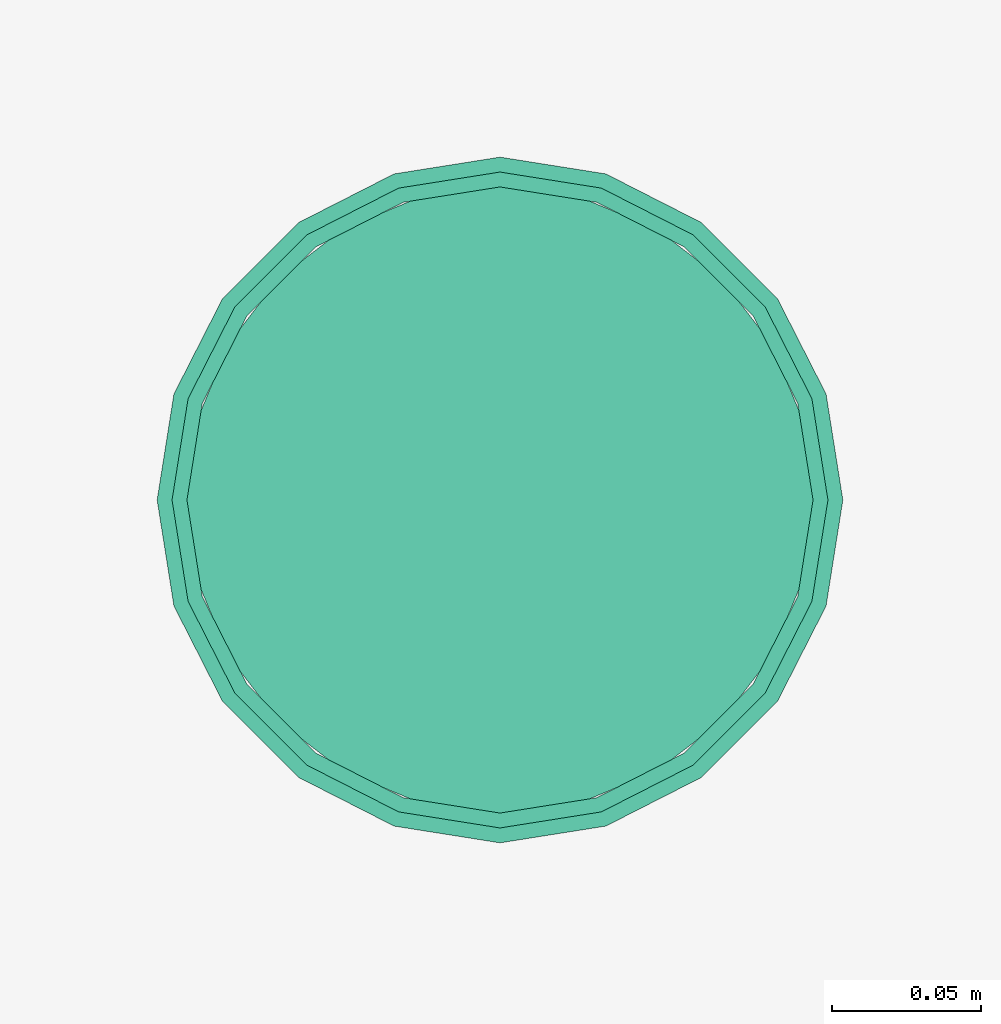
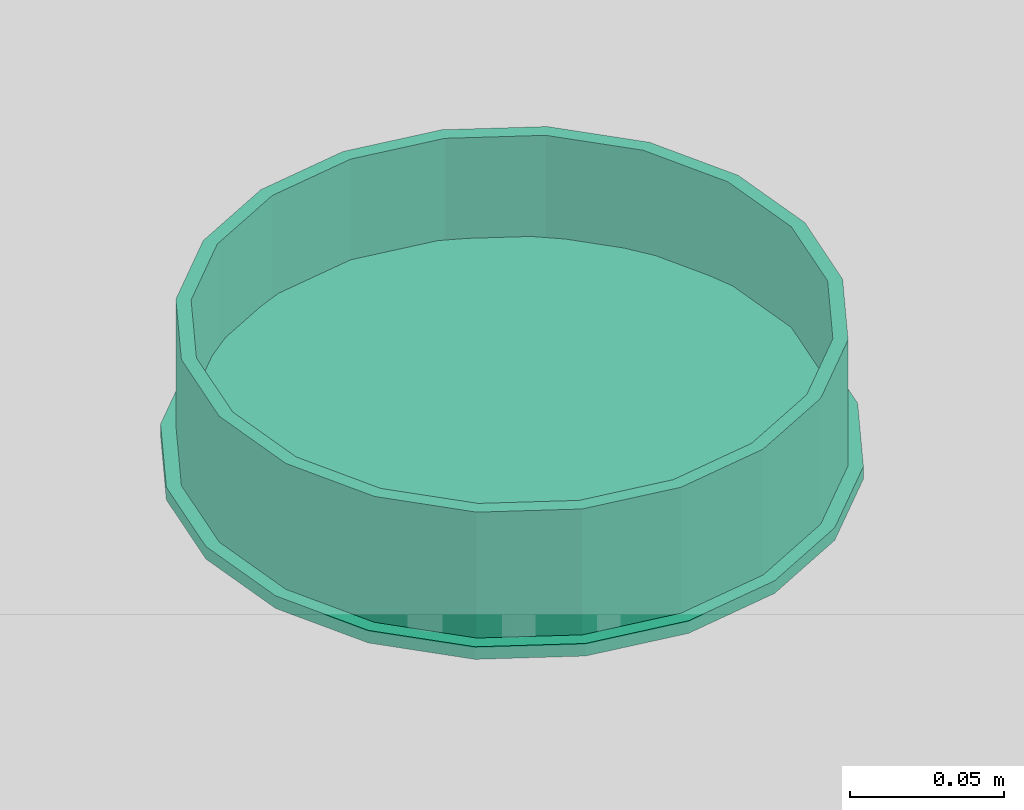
# One storey, part 76 of 128: 1 flow terminal.
"""IFC2X3 building model written with IfcOpenShell, lengths in metres."""

from ifc_helpers import new_model, entity, si_unit, converted_unit, derived_unit, direction, frame, origin, place, context, subcontext, project, spatial, faceted_brep, source, transform, mapped, material, type_object, type_shapes, element, save


model = new_model("IFC2X3")

# Units and contexts
model_context = context("Model", 3, precision=1e-05, world=origin(), true_north=direction((6.123031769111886e-17, 1.0)))
body_context = subcontext(model_context, "Body", "Model", "MODEL_VIEW")
ifc_project = project(units=[si_unit("LENGTHUNIT", "METRE"), si_unit("AREAUNIT", "SQUARE_METRE"), converted_unit("PLANEANGLEUNIT", "DEGREE", entity("IfcPlaneAngleMeasure", 0.017453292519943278), si_unit("PLANEANGLEUNIT", "RADIAN"), dimensions=[0, 0, 0, 0, 0, 0, 0]), derived_unit("THERMALTRANSMITTANCEUNIT", [(si_unit("MASSUNIT", "GRAM", prefix="KILO"), 1), (si_unit("THERMODYNAMICTEMPERATUREUNIT", "KELVIN"), -1), (si_unit("TIMEUNIT", "SECOND"), -3)])], contexts=[model_context])

# Site, building, storey
site_placement = place(None, origin())
site = spatial("IfcSite", under=ifc_project, at=site_placement, Name="Default", CompositionType="ELEMENT")
building_placement = place(site_placement, origin())
building = spatial("IfcBuilding", under=site, at=building_placement, CompositionType="ELEMENT")
storey_placement = place(building_placement, origin())
storey = spatial("IfcBuildingStorey", under=building, at=storey_placement, Name="00_RDC CAF", CompositionType="ELEMENT", Elevation=2.4982504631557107e-13)

# Flow terminal
ifc_material = material(Name="ARC - Eq Elec - Blanc")
light_fixture_type = type_object("IfcLightFixtureType", Name="Eq_Elec_Luminaire_Circulaire_LED_Encastre:Eq_Elec_Luminaire_Circulaire_LED_Encastre_D220x50mm", PredefinedType="NOTDEFINED", material=ifc_material)
shared_shape = source(origin(), body_context, "Body", "Brep", [
    faceted_brep([(0.0, 0.10499999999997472, -0.010000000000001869), (0.02717599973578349, 0.10142221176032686, -0.010000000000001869), (0.05250000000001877, 0.09093266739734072, -0.010000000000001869), (0.07424621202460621, 0.07424621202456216, -0.010000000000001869), (0.09093266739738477, 0.05249999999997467, -0.010000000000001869), (0.10142221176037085, 0.027175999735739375, -0.010000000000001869), (0.10500000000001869, 0.0, -0.010000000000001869), (0.10142221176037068, -0.02717599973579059, -0.010000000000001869), (0.09093266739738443, -0.05250000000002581, -0.010000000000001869), (0.07424621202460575, -0.07424621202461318, -0.010000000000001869), (0.0525000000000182, -0.09093266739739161, -0.010000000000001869), (0.02717599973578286, -0.10142221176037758, -0.010000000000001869), (0.0, -0.10500000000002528, -0.010000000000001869), (-0.027175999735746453, -0.10142221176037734, -0.010000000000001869), (-0.052499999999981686, -0.09093266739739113, -0.010000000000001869), (-0.07424621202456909, -0.0742462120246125, -0.010000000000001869), (-0.09093266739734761, -0.052500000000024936, -0.010000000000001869), (-0.10142221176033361, -0.027175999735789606, -0.010000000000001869), (-0.10499999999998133, 0.0, -0.010000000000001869), (-0.1014222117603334, 0.027175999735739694, -0.010000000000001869), (-0.09093266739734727, 0.05249999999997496, -0.010000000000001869), (-0.07424621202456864, 0.07424621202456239, -0.010000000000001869), (-0.052499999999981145, 0.09093266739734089, -0.010000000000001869), (-0.027175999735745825, 0.10142221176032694, -0.010000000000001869), (0.02717599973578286, -0.10142221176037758, 0.0), (0.0525000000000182, -0.09093266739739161, 0.0), (0.07424621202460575, -0.07424621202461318, 0.0), (0.09093266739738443, -0.05250000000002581, 0.0), (0.10142221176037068, -0.02717599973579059, 0.0), (0.10500000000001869, 0.0, 0.0), (0.10142221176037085, 0.027175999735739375, 0.0), (0.09093266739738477, 0.05249999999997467, 0.0), (0.07424621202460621, 0.07424621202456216, 0.0), (0.05250000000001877, 0.09093266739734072, 0.0), (0.02717599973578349, 0.10142221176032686, 0.0), (0.0, 0.10499999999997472, 0.0), (-0.027175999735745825, 0.10142221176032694, 0.0), (-0.052499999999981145, 0.09093266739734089, 0.0), (-0.07424621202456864, 0.07424621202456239, 0.0), (-0.09093266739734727, 0.05249999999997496, 0.0), (-0.1014222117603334, 0.027175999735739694, 0.0), (-0.10499999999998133, 0.0, 0.0), (-0.10142221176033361, -0.027175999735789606, 0.0), (-0.09093266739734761, -0.052500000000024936, 0.0), (-0.07424621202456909, -0.0742462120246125, 0.0), (-0.052499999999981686, -0.09093266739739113, 0.0), (-0.027175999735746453, -0.10142221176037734, 0.0), (0.0, -0.10500000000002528, 0.0)], [[[0, 1, 2, 3, 4, 5, 6, 7, 8, 9, 10, 11, 12, 13, 14, 15, 16, 17, 18, 19, 20, 21, 22, 23]], [[24, 25, 26, 27, 28, 29, 30, 31, 32, 33, 34, 35, 36, 37, 38, 39, 40, 41, 42, 43, 44, 45, 46, 47]], [[17, 42, 41, 18]], [[16, 43, 42, 17]], [[45, 44, 15, 14]], [[16, 15, 44, 43]], [[46, 45, 14, 13]], [[47, 46, 13, 12]], [[11, 24, 47, 12]], [[10, 25, 24, 11]], [[27, 26, 9, 8]], [[10, 9, 26, 25]], [[28, 27, 8, 7]], [[29, 28, 7, 6]], [[5, 30, 29, 6]], [[4, 31, 30, 5]], [[33, 32, 3, 2]], [[4, 3, 32, 31]], [[34, 33, 2, 1]], [[35, 34, 1, 0]], [[23, 36, 35, 0]], [[22, 37, 36, 23]], [[19, 18, 41, 40]], [[21, 38, 37, 22]], [[39, 20, 19, 40]], [[39, 38, 21, 20]]]),
    faceted_brep([(-0.10999999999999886, 0.0, 0.0), (-0.10999999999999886, 0.0, -0.05000000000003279), (-0.10461621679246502, -0.033991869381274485, -0.05000000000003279), (-0.10461621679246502, -0.033991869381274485, 0.0), (-0.08899186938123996, -0.06465637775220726, 0.0), (-0.08899186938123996, -0.06465637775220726, -0.05000000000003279), (-0.06465637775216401, -0.08899186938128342, -0.05000000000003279), (-0.06465637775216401, -0.08899186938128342, 0.0), (-0.03399186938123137, -0.10461621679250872, -0.05000000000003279), (-0.03399186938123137, -0.10461621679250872, 0.0), (0.0, -0.11000000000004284, -0.05000000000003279), (0.0, -0.11000000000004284, 0.0), (0.033991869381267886, -0.10461621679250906, -0.05000000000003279), (0.06465637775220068, -0.08899186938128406, -0.05000000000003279), (0.06465637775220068, -0.08899186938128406, 0.0), (0.033991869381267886, -0.10461621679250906, 0.0), (0.10461621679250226, -0.03399186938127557, 0.0), (0.08899186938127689, -0.06465637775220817, 0.0), (0.08899186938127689, -0.06465637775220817, -0.05000000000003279), (0.10461621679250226, -0.03399186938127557, -0.05000000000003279), (0.11000000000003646, 0.0, 0.0), (0.11000000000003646, 0.0, -0.05000000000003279), (-0.1093714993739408, -0.03553695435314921, 0.0), (-0.1093714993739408, -0.03553695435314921, 0.004999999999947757), (-0.11135404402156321, -0.023019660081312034, 0.004999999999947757), (-0.11499999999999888, 0.0, 0.004999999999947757), (-0.11499999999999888, 0.0, 0.0), (-0.11218574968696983, -0.017768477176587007, 0.0), (-0.09303695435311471, -0.0675953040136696, 0.0), (-0.08031612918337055, -0.08031612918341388, 0.0), (-0.06759530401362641, -0.09303695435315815, 0.0), (-0.06759530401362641, -0.09303695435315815, 0.004999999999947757), (-0.08031612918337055, -0.08031612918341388, 0.004999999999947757), (-0.09303695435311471, -0.0675953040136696, 0.004999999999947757), (0.10120422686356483, -0.05156612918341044, 0.004999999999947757), (0.09303695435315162, -0.06759530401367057, 0.004999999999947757), (0.09303695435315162, -0.06759530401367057, 0.0), (0.10120422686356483, -0.05156612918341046, 0.0), (0.10937149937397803, -0.035536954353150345, 0.0), (0.10937149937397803, -0.035536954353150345, 0.004999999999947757), (0.08031612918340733, -0.0803161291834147, 0.004999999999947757), (0.06759530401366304, -0.09303695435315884, 0.004999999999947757), (0.06759530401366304, -0.09303695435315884, 0.0), (0.08031612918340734, -0.08031612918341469, 0.0), (-0.10120422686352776, -0.0515661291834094, 0.0), (-0.10120422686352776, -0.0515661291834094, 0.004999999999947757), (-0.051566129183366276, -0.10120422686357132, 0.0), (-0.03553695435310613, -0.1093714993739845, 0.0), (-0.03553695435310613, -0.1093714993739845, 0.004999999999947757), (-0.051566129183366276, -0.10120422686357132, 0.004999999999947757), (0.11500000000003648, 0.0, 0.004999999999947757), (0.11135404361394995, -0.02301966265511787, 0.004999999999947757), (0.11218574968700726, -0.01776847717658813, 0.0), (0.11500000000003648, 0.0, 0.0), (0.017768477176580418, -0.11218574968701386, 0.0), (0.0355369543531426, -0.10937149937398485, 0.0), (0.0355369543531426, -0.10937149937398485, 0.004999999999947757), (0.017768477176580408, -0.11218574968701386, 0.004999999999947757), (0.0, -0.11500000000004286, 0.004999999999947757), (0.0, -0.11500000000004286, 0.0), (-0.017768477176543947, -0.11218574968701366, 0.004999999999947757), (-0.017768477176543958, -0.11218574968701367, 0.0), (0.051566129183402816, -0.10120422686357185, 0.0), (0.051566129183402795, -0.10120422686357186, 0.004999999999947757), (-0.09986093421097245, -0.0324467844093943, -0.05000000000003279), (-0.1049999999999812, 0.0, -0.05000000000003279), (-0.1049999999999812, 0.0, 0.004999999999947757), (-0.09986093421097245, -0.0324467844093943, 0.004999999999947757), (-0.061717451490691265, -0.08494678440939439, -0.05000000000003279), (-0.08494678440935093, -0.06171745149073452, -0.05000000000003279), (-0.08494678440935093, -0.06171745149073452, 0.004999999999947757), (-0.061717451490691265, -0.08494678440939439, 0.004999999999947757), (-0.03244678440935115, -0.09986093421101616, 0.004999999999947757), (-0.03244678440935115, -0.09986093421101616, -0.05000000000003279), (0.0, -0.10500000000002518, 0.004999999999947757), (0.0, -0.10500000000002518, -0.05000000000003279), (0.06171745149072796, -0.08494678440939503, -0.05000000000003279), (0.03244678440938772, -0.0998609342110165, -0.05000000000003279), (0.03244678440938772, -0.0998609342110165, 0.004999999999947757), (0.06171745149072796, -0.08494678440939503, 0.004999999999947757), (0.09986093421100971, -0.03244678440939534, -0.05000000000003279), (0.0849467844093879, -0.06171745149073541, -0.05000000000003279), (0.0849467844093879, -0.06171745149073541, 0.004999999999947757), (0.09986093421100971, -0.03244678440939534, 0.004999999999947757), (0.1050000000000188, 0.0, -0.05000000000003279), (0.1050000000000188, 0.0, 0.004999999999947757), (0.10461621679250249, 0.03399186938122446, -0.05000000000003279), (0.10461621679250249, 0.03399186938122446, 0.0), (0.08899186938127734, 0.06465637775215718, 0.0), (0.08899186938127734, 0.06465637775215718, -0.05000000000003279), (0.0646563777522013, 0.08899186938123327, -0.05000000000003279), (0.0646563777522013, 0.08899186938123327, 0.0), (0.03399186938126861, 0.10461621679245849, -0.05000000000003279), (0.03399186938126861, 0.10461621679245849, 0.0), (0.0, 0.10999999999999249, -0.05000000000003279), (0.0, 0.10999999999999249, 0.0), (-0.033991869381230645, 0.1046162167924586, -0.05000000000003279), (-0.0646563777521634, 0.0889918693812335, -0.05000000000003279), (-0.0646563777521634, 0.0889918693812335, 0.0), (-0.033991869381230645, 0.1046162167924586, 0.0), (-0.10461621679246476, 0.03399186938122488, 0.0), (-0.0889918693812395, 0.06465637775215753, 0.0), (-0.0889918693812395, 0.06465637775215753, -0.05000000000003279), (-0.10461621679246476, 0.03399186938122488, -0.05000000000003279), (0.09986093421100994, 0.03244678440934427, -0.05000000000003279), (0.08494678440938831, 0.061717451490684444, -0.05000000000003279), (0.06171745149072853, 0.08494678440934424, -0.05000000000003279), (0.03244678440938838, 0.0998609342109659, -0.05000000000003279), (0.0, 0.1049999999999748, -0.05000000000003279), (-0.032446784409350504, 0.09986093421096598, -0.05000000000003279), (-0.061717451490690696, 0.0849467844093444, -0.05000000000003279), (-0.0849467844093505, 0.06171745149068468, -0.05000000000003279), (-0.0998609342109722, 0.03244678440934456, -0.05000000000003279), (0.10937149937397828, 0.035536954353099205, 0.0), (0.10937149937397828, 0.035536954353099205, 0.004999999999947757), (0.11135404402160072, 0.023019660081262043, 0.004999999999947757), (0.11218574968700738, 0.017768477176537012, 0.0), (0.0930369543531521, 0.06759530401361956, 0.0), (0.0803161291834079, 0.0803161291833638, 0.0), (0.06759530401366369, 0.093036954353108, 0.0), (0.06759530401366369, 0.093036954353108, 0.004999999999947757), (0.0803161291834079, 0.0803161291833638, 0.004999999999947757), (0.0930369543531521, 0.06759530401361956, 0.004999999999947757), (-0.1012042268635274, 0.05156612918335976, 0.004999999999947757), (-0.09303695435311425, 0.06759530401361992, 0.004999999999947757), (-0.09303695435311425, 0.06759530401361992, 0.0), (-0.1012042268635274, 0.05156612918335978, 0.0), (-0.10937149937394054, 0.03553695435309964, 0.0), (-0.10937149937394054, 0.03553695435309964, 0.004999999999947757), (-0.08031612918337, 0.0803161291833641, 0.004999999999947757), (-0.06759530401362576, 0.09303695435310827, 0.004999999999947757), (-0.06759530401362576, 0.09303695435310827, 0.0), (-0.08031612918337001, 0.08031612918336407, 0.0), (0.1012042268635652, 0.05156612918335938, 0.0), (0.1012042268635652, 0.05156612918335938, 0.004999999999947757), (0.051566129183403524, 0.10120422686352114, 0.0), (0.03553695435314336, 0.10937149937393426, 0.0), (0.03553695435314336, 0.10937149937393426, 0.004999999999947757), (0.051566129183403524, 0.10120422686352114, 0.004999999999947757), (-0.11135404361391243, 0.023019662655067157, 0.004999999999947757), (-0.11218574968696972, 0.017768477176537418, 0.0), (-0.0177684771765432, 0.11218574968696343, 0.0), (-0.035536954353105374, 0.1093714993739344, 0.0), (-0.035536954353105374, 0.1093714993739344, 0.004999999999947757), (-0.017768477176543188, 0.11218574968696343, 0.004999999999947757), (0.0, 0.1149999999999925, 0.004999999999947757), (0.0, 0.1149999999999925, 0.0), (0.017768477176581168, 0.11218574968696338, 0.004999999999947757), (0.017768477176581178, 0.11218574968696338, 0.0), (-0.05156612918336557, 0.10120422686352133, 0.0), (-0.05156612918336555, 0.10120422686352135, 0.004999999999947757), (0.09986093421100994, 0.03244678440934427, 0.004999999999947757), (0.08494678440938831, 0.061717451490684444, 0.004999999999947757), (0.06171745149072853, 0.08494678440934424, 0.004999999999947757), (0.03244678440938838, 0.0998609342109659, 0.004999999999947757), (0.0, 0.1049999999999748, 0.004999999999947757), (-0.032446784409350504, 0.09986093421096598, 0.004999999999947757), (-0.061717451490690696, 0.0849467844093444, 0.004999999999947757), (-0.0849467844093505, 0.06171745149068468, 0.004999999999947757), (-0.0998609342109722, 0.03244678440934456, 0.004999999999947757)], [[[0, 1, 2, 3]], [[4, 5, 6, 7]], [[2, 5, 4, 3]], [[6, 8, 9, 7]], [[9, 8, 10, 11]], [[12, 13, 14, 15]], [[16, 17, 18, 19]], [[18, 17, 14, 13]], [[20, 16, 19, 21]], [[15, 11, 10, 12]], [[22, 23, 24, 25, 26, 27]], [[28, 29, 30, 31, 32, 33]], [[34, 35, 36, 37, 38, 39]], [[40, 41, 42, 43, 36, 35]], [[22, 44, 28, 33, 45, 23]], [[30, 46, 47, 48, 49, 31]], [[50, 51, 39, 38, 52, 53]], [[54, 55, 56, 57, 58, 59]], [[60, 48, 47, 61, 59, 58]], [[55, 62, 42, 41, 63, 56]], [[64, 65, 66, 67]], [[68, 69, 70, 71]], [[67, 70, 69, 64]], [[71, 72, 73, 68]], [[74, 75, 73, 72]], [[76, 77, 78, 79]], [[80, 81, 82, 83]], [[82, 81, 76, 79]], [[84, 80, 83, 85]], [[78, 77, 75, 74]], [[20, 21, 86, 87]], [[88, 89, 90, 91]], [[86, 89, 88, 87]], [[90, 92, 93, 91]], [[93, 92, 94, 95]], [[96, 97, 98, 99]], [[100, 101, 102, 103]], [[102, 101, 98, 97]], [[0, 100, 103, 1]], [[99, 95, 94, 96]], [[64, 69, 5]], [[5, 2, 64]], [[64, 2, 65]], [[6, 5, 69]], [[69, 68, 6]], [[68, 73, 6]], [[8, 6, 73]], [[73, 75, 8]], [[10, 8, 75]], [[10, 75, 77]], [[77, 12, 10]], [[77, 76, 12]], [[13, 12, 76]], [[81, 13, 76]], [[13, 81, 18]], [[80, 18, 81]], [[18, 80, 19]], [[84, 19, 80]], [[21, 19, 84]], [[104, 21, 84]], [[86, 21, 104]], [[104, 105, 86]], [[89, 86, 105]], [[106, 89, 105]], [[89, 106, 90]], [[92, 90, 106]], [[106, 107, 92]], [[92, 107, 94]], [[107, 108, 94]], [[94, 108, 96]], [[108, 109, 96]], [[97, 96, 109]], [[109, 110, 97]], [[102, 97, 110]], [[110, 111, 102]], [[102, 111, 103]], [[112, 103, 111]], [[103, 112, 1]], [[112, 65, 1]], [[1, 65, 2]], [[113, 114, 115, 50, 53, 116]], [[117, 118, 119, 120, 121, 122]], [[123, 124, 125, 126, 127, 128]], [[129, 130, 131, 132, 125, 124]], [[113, 133, 117, 122, 134, 114]], [[119, 135, 136, 137, 138, 120]], [[25, 139, 128, 127, 140, 26]], [[141, 142, 143, 144, 145, 146]], [[147, 137, 136, 148, 146, 145]], [[142, 149, 131, 130, 150, 143]], [[33, 70, 67]], [[70, 33, 32]], [[67, 45, 33]], [[70, 32, 31]], [[31, 71, 70]], [[31, 72, 71]], [[72, 31, 49]], [[72, 49, 48]], [[48, 74, 72]], [[74, 48, 60]], [[74, 60, 58]], [[78, 74, 58]], [[78, 58, 57]], [[78, 57, 56]], [[56, 79, 78]], [[79, 56, 63]], [[79, 63, 41]], [[79, 41, 82]], [[82, 41, 40]], [[82, 40, 35]], [[82, 35, 83]], [[83, 35, 34]], [[83, 34, 39]], [[83, 39, 85]], [[85, 39, 51]], [[85, 51, 50]], [[85, 50, 151]], [[151, 50, 115]], [[151, 115, 114]], [[114, 152, 151]], [[152, 114, 134]], [[152, 134, 122]], [[152, 122, 153]], [[153, 122, 121]], [[153, 121, 120]], [[153, 120, 138]], [[153, 138, 137]], [[137, 154, 153]], [[154, 137, 147]], [[154, 147, 145]], [[145, 155, 154]], [[155, 145, 144]], [[155, 144, 143]], [[143, 156, 155]], [[156, 143, 150]], [[156, 150, 130]], [[130, 157, 156]], [[157, 130, 129]], [[157, 129, 124]], [[124, 158, 157]], [[158, 124, 123]], [[158, 123, 128]], [[158, 128, 159]], [[159, 128, 139]], [[159, 139, 25]], [[25, 66, 159]], [[66, 25, 24]], [[66, 24, 23]], [[23, 67, 66]], [[67, 23, 45]], [[104, 84, 85, 151]], [[106, 105, 152, 153]], [[151, 152, 105, 104]], [[153, 154, 107, 106]], [[155, 108, 107, 154]], [[110, 109, 156, 157]], [[112, 111, 158, 159]], [[158, 111, 110, 157]], [[65, 112, 159, 66]], [[156, 109, 108, 155]], [[3, 4, 28]], [[3, 28, 44]], [[3, 44, 22]], [[3, 22, 0]], [[4, 29, 28]], [[4, 30, 29]], [[4, 7, 30]], [[7, 9, 30]], [[9, 46, 30]], [[9, 47, 46]], [[9, 11, 47]], [[11, 61, 47]], [[11, 59, 61]], [[59, 11, 15]], [[15, 54, 59]], [[15, 55, 54]], [[15, 14, 55]], [[14, 62, 55]], [[14, 42, 62]], [[17, 42, 14]], [[17, 43, 42]], [[17, 36, 43]], [[16, 36, 17]], [[16, 37, 36]], [[16, 38, 37]], [[20, 38, 16]], [[20, 52, 38]], [[20, 53, 52]], [[87, 53, 20]], [[87, 116, 53]], [[87, 113, 116]], [[87, 88, 113]], [[88, 133, 113]], [[88, 117, 133]], [[91, 117, 88]], [[91, 118, 117]], [[91, 119, 118]], [[91, 135, 119]], [[91, 136, 135]], [[91, 93, 136]], [[93, 148, 136]], [[93, 146, 148]], [[93, 95, 146]], [[95, 141, 146]], [[95, 142, 141]], [[95, 99, 142]], [[99, 149, 142]], [[99, 131, 149]], [[99, 98, 131]], [[98, 132, 131]], [[98, 125, 132]], [[98, 101, 125]], [[101, 126, 125]], [[101, 127, 126]], [[100, 127, 101]], [[100, 0, 26]], [[100, 26, 140]], [[100, 140, 127]], [[0, 22, 27]], [[0, 27, 26]]]),
])
type_shapes(light_fixture_type, [shared_shape])
flow_terminal_placement = place(storey_placement, frame((7.601233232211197, 141.22948300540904, 3.839999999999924), z_axis=(0.0, 0.0, -1.0), x_axis=(1.0, 0.0, 0.0)))
element("IfcFlowTerminal", 1, at=flow_terminal_placement, inside=storey, type_object=light_fixture_type, material=ifc_material, Name="Eq_Elec_Luminaire_Circulaire_LED_Encastre:Eq_Elec_Luminaire_Circulaire_LED_Encastre_D220x50mm", ObjectType="Eq_Elec_Luminaire_Circulaire_LED_Encastre:Eq_Elec_Luminaire_Circulaire_LED_Encastre_D220x50mm", context=body_context, shape_type="MappedRepresentation", body=[
    mapped(shared_shape, transform((0.0, 0.0, 0.0), scale=1.0)),
])

save(model, "model.ifc")
